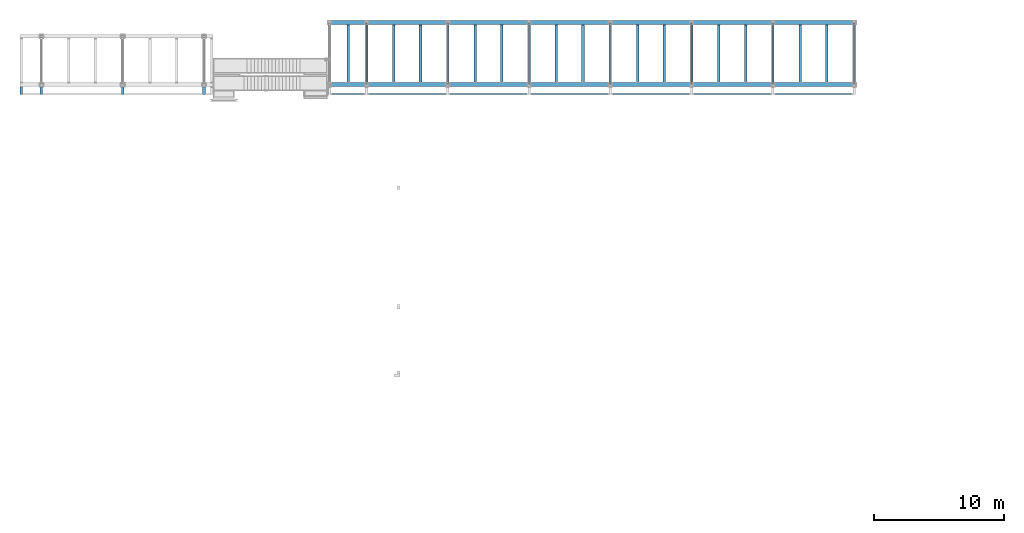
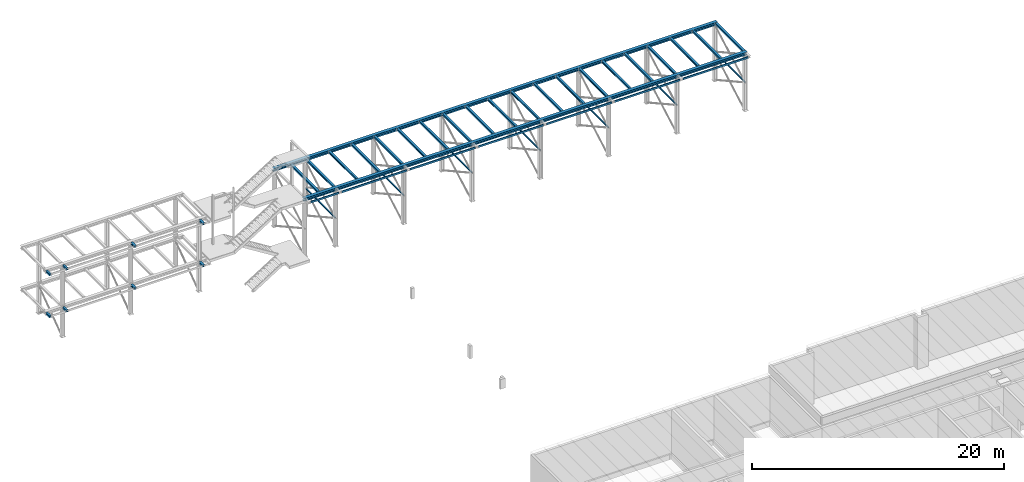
# One storey, part 6 of 24: 44 beams.
"""IFC2X3 building model written with IfcOpenShell, lengths in metres."""

from ifc_helpers import new_model, entity, si_unit, converted_unit, derived_unit, frame, origin, place, context, subcontext, project, spatial, polyline, outline, extrude, material, element, save


model = new_model("IFC2X3")

# Units and contexts
model_context = context("Model", 3, precision=1e-05, world=origin())
body_context = subcontext(model_context, "Body", "Model", "MODEL_VIEW")
ifc_project = project(units=[si_unit("LENGTHUNIT", "METRE"), si_unit("AREAUNIT", "SQUARE_METRE"), si_unit("VOLUMEUNIT", "CUBIC_METRE"), si_unit("MASSUNIT", "GRAM", prefix="KILO"), converted_unit("PLANEANGLEUNIT", "DEGREE", entity("IfcPlaneAngleMeasure", 0.0174532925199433), si_unit("PLANEANGLEUNIT", "RADIAN"), dimensions=[0, 0, 0, 0, 0, 0, 0]), derived_unit("THERMALTRANSMITTANCEUNIT", [(si_unit("POWERUNIT", "WATT"), 1), (si_unit("THERMODYNAMICTEMPERATUREUNIT", "KELVIN"), -1), (si_unit("LENGTHUNIT", "METRE"), -2)]), derived_unit("VOLUMETRICFLOWRATEUNIT", [(si_unit("LENGTHUNIT", "METRE"), 3), (converted_unit("TIMEUNIT", "hour", entity("IfcTimeMeasure", 3600.0), si_unit("TIMEUNIT", "SECOND"), dimensions=[0, 0, 1, 0, 0, 0, 0]), -1), (si_unit("LENGTHUNIT", "METRE"), -1)])], contexts=[model_context])

# Site, building, storey
site_placement = place(None, origin())
site = spatial("IfcSite", under=ifc_project, at=site_placement, Name="TWP_Speiseverteilzentrum SBW VZ II", CompositionType="ELEMENT")
building_placement = place(site_placement, origin())
building = spatial("IfcBuilding", under=site, at=building_placement, Name="Speiseverteilzentrum SBW VZ II", CompositionType="ELEMENT")
storey_placement = place(building_placement, frame((0.0, 0.0, 0.6957)))
storey = spatial("IfcBuildingStorey", under=building, at=storey_placement, Name="EG_Technik_FFB", CompositionType="ELEMENT", Elevation=0.6957)

# Beams
ifc_material_1 = material(Name="S235")
beam_1_placement = place(storey_placement, frame((69.5187031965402, 87.4749999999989, 6.19), z_axis=(0.0, 0.0, 1.0), x_axis=(-1.22464679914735e-16, -1.0, 0.0)))
element("IfcBeam", 1, at=beam_1_placement, inside=storey, material=ifc_material_1, Name="Rahmenriegel", context=body_context, shape_type="SweptSolid", body=[
    extrude(outline(polyline([(-0.15, 0.145), (-0.15, 0.131), (-0.00424999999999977, 0.131), (-0.00424999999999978, -0.131), (-0.15, -0.131), (-0.15, -0.145), (0.15, -0.145), (0.15, -0.131), (0.00425000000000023, -0.131), (0.00425000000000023, 0.131), (0.15, 0.131), (0.15, 0.145), (-0.15, 0.145)])), frame((0.0, 0.0, 0.0), z_axis=(0.0, 1.0, 0.0), x_axis=(-1.0, 0.0, 0.0)), (0.0, 0.0, 1.0), 40.6262968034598),
])
ifc_material_2 = material(Name="S235")
beam_2_placement = place(storey_placement, frame((69.5187031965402, 92.2499999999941, 6.19), z_axis=(0.0, 0.0, 1.0), x_axis=(-1.22464679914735e-16, -1.0, 0.0)))
element("IfcBeam", 2, at=beam_2_placement, inside=storey, material=ifc_material_2, Name="Rahmenriegel", context=body_context, shape_type="SweptSolid", body=[
    extrude(outline(polyline([(-0.15, 0.145), (-0.15, 0.131), (-0.00424999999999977, 0.131), (-0.00424999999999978, -0.131), (-0.15, -0.131), (-0.15, -0.145), (0.15, -0.145), (0.15, -0.131), (0.00425000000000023, -0.131), (0.00425000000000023, 0.131), (0.15, 0.131), (0.15, 0.145), (-0.15, 0.145)])), frame((0.0, 0.0, 0.0), z_axis=(0.0, 1.0, 0.0), x_axis=(-1.0, 0.0, 0.0)), (0.0, 0.0, 1.0), 40.6262968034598),
])
ifc_material_3 = material(Name="S235")
beam_3_placement = place(storey_placement, frame((110.0, 87.4792499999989, 3.35), z_axis=(0.0, 0.0, 1.0), x_axis=(1.0, -2.44929359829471e-16, 0.0)))
element("IfcBeam", 3, at=beam_3_placement, inside=storey, material=ifc_material_3, Name="Zwischenriegel", context=body_context, shape_type="SweptSolid", body=[
    extrude(outline(polyline([(-0.05, 0.048), (-0.05, 0.04), (-0.0025, 0.04), (-0.00250000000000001, -0.0399999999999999), (-0.05, -0.0399999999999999), (-0.05, -0.048), (0.05, -0.048), (0.05, -0.0399999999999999), (0.00249999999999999, -0.0399999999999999), (0.0025, 0.04), (0.05, 0.04), (0.05, 0.048), (-0.05, 0.048)])), frame((0.0, 0.0, 0.0), z_axis=(0.0, 1.0, 0.0), x_axis=(-1.0, 0.0, 0.0)), (0.0, 0.0, 1.0), 4.76649999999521),
])
ifc_material_4 = material(Name="S235")
beam_4_placement = place(storey_placement, frame((103.75, 87.4792499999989, 3.35), z_axis=(0.0, 0.0, 1.0), x_axis=(1.0, -2.44929359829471e-16, 0.0)))
element("IfcBeam", 4, at=beam_4_placement, inside=storey, material=ifc_material_4, Name="Zwischenriegel", context=body_context, shape_type="SweptSolid", body=[
    extrude(outline(polyline([(-0.05, 0.048), (-0.05, 0.04), (-0.0025, 0.04), (-0.00250000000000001, -0.0399999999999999), (-0.05, -0.0399999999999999), (-0.05, -0.048), (0.05, -0.048), (0.05, -0.0399999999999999), (0.00249999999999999, -0.0399999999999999), (0.0025, 0.04), (0.05, 0.04), (0.05, 0.048), (-0.05, 0.048)])), frame((0.0, 0.0, 0.0), z_axis=(0.0, 1.0, 0.0), x_axis=(-1.0, 0.0, 0.0)), (0.0, 0.0, 1.0), 4.76649999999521),
])
ifc_material_5 = material(Name="S235")
beam_5_placement = place(storey_placement, frame((97.49675, 87.4792499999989, 3.35), z_axis=(0.0, 0.0, 1.0), x_axis=(1.0, -2.44929359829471e-16, 0.0)))
element("IfcBeam", 5, at=beam_5_placement, inside=storey, material=ifc_material_5, Name="Zwischenriegel", context=body_context, shape_type="SweptSolid", body=[
    extrude(outline(polyline([(-0.05, 0.048), (-0.05, 0.04), (-0.0025, 0.04), (-0.00250000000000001, -0.0399999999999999), (-0.05, -0.0399999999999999), (-0.05, -0.048), (0.05, -0.048), (0.05, -0.0399999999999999), (0.00249999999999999, -0.0399999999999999), (0.0025, 0.04), (0.05, 0.04), (0.05, 0.048), (-0.05, 0.048)])), frame((0.0, 0.0, 0.0), z_axis=(0.0, 1.0, 0.0), x_axis=(-1.0, 0.0, 0.0)), (0.0, 0.0, 1.0), 4.76649999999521),
])
ifc_material_6 = material(Name="S235")
beam_6_placement = place(storey_placement, frame((91.24675, 87.4792499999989, 3.35), z_axis=(0.0, 0.0, 1.0), x_axis=(1.0, -2.44929359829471e-16, 0.0)))
element("IfcBeam", 6, at=beam_6_placement, inside=storey, material=ifc_material_6, Name="Zwischenriegel", context=body_context, shape_type="SweptSolid", body=[
    extrude(outline(polyline([(-0.05, 0.048), (-0.05, 0.04), (-0.0025, 0.04), (-0.00250000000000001, -0.0399999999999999), (-0.05, -0.0399999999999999), (-0.05, -0.048), (0.05, -0.048), (0.05, -0.0399999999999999), (0.00249999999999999, -0.0399999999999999), (0.0025, 0.04), (0.05, 0.04), (0.05, 0.048), (-0.05, 0.048)])), frame((0.0, 0.0, 0.0), z_axis=(0.0, 1.0, 0.0), x_axis=(-1.0, 0.0, 0.0)), (0.0, 0.0, 1.0), 4.76649999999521),
])
ifc_material_7 = material(Name="S235")
beam_7_placement = place(storey_placement, frame((85.00325, 87.4792499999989, 3.35), z_axis=(0.0, 0.0, 1.0), x_axis=(1.0, -2.44929359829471e-16, 0.0)))
element("IfcBeam", 7, at=beam_7_placement, inside=storey, material=ifc_material_7, Name="Zwischenriegel", context=body_context, shape_type="SweptSolid", body=[
    extrude(outline(polyline([(-0.05, 0.048), (-0.05, 0.04), (-0.0025, 0.04), (-0.00250000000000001, -0.0399999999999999), (-0.05, -0.0399999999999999), (-0.05, -0.048), (0.05, -0.048), (0.05, -0.0399999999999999), (0.00249999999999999, -0.0399999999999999), (0.0025, 0.04), (0.05, 0.04), (0.05, 0.048), (-0.05, 0.048)])), frame((0.0, 0.0, 0.0), z_axis=(0.0, 1.0, 0.0), x_axis=(-1.0, 0.0, 0.0)), (0.0, 0.0, 1.0), 4.76649999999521),
])
ifc_material_8 = material(Name="S235")
beam_8_placement = place(storey_placement, frame((78.75, 87.4792499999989, 3.35), z_axis=(0.0, 0.0, 1.0), x_axis=(1.0, -2.44929359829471e-16, 0.0)))
element("IfcBeam", 8, at=beam_8_placement, inside=storey, material=ifc_material_8, Name="Zwischenriegel", context=body_context, shape_type="SweptSolid", body=[
    extrude(outline(polyline([(-0.05, 0.048), (-0.05, 0.04), (-0.0025, 0.04), (-0.00250000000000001, -0.0399999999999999), (-0.05, -0.0399999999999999), (-0.05, -0.048), (0.05, -0.048), (0.05, -0.0399999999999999), (0.00249999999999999, -0.0399999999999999), (0.0025, 0.04), (0.05, 0.04), (0.05, 0.048), (-0.05, 0.048)])), frame((0.0, 0.0, 0.0), z_axis=(0.0, 1.0, 0.0), x_axis=(-1.0, 0.0, 0.0)), (0.0, 0.0, 1.0), 4.76649999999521),
])
ifc_material_9 = material(Name="S235")
beam_9_placement = place(storey_placement, frame((72.5, 87.4792499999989, 3.35), z_axis=(0.0, 0.0, 1.0), x_axis=(1.0, -2.44929359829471e-16, 0.0)))
element("IfcBeam", 9, at=beam_9_placement, inside=storey, material=ifc_material_9, Name="Zwischenriegel", context=body_context, shape_type="SweptSolid", body=[
    extrude(outline(polyline([(-0.05, 0.048), (-0.05, 0.04), (-0.0025, 0.04), (-0.00250000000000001, -0.0399999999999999), (-0.05, -0.0399999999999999), (-0.05, -0.048), (0.05, -0.048), (0.05, -0.0399999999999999), (0.00249999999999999, -0.0399999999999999), (0.0025, 0.04), (0.05, 0.04), (0.05, 0.048), (-0.05, 0.048)])), frame((0.0, 0.0, 0.0), z_axis=(0.0, 1.0, 0.0), x_axis=(-1.0, 0.0, 0.0)), (0.0, 0.0, 1.0), 4.76649999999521),
])
ifc_material_10 = material(Name="S235")
beam_10_placement = place(storey_placement, frame((72.37, 86.7448924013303, 6.245), z_axis=(0.0, 0.0, 1.0), x_axis=(0.0, 1.0, 0.0)))
element("IfcBeam", 10, at=beam_10_placement, inside=storey, material=ifc_material_10, Name="Nebenträger", context=body_context, shape_type="SweptSolid", body=[
    extrude(outline(polyline([(0.0198924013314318, -0.0899999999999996), (0.0198924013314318, 0.0900000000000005), (-0.0501075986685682, 0.0900000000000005), (-0.0501075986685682, 0.0814800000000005), (0.0118924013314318, 0.0765200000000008), (0.0118924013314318, -0.0765199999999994), (-0.0501075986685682, -0.0814799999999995), (-0.0501075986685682, -0.0899999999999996), (0.0198924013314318, -0.0899999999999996)])), frame((0.0, 0.0, 0.0), z_axis=(0.0, 1.0, 0.0), x_axis=(-1.0, 0.0, 0.0)), (0.0, 0.0, 1.0), 2.57629680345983),
])
ifc_material_11 = material(Name="S235")
beam_11_placement = place(storey_placement, frame((78.62, 86.7448924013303, 6.245), z_axis=(0.0, 0.0, 1.0), x_axis=(0.0, 1.0, 0.0)))
element("IfcBeam", 11, at=beam_11_placement, inside=storey, material=ifc_material_11, Name="Nebenträger", context=body_context, shape_type="SweptSolid", body=[
    extrude(outline(polyline([(0.0198924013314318, -0.0899999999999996), (0.0198924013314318, 0.0900000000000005), (-0.0501075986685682, 0.0900000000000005), (-0.0501075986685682, 0.0814800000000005), (0.0118924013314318, 0.0765200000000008), (0.0118924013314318, -0.0765199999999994), (-0.0501075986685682, -0.0814799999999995), (-0.0501075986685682, -0.0899999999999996), (0.0198924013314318, -0.0899999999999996)])), frame((0.0, 0.0, 0.0), z_axis=(0.0, 1.0, 0.0), x_axis=(-1.0, 0.0, 0.0)), (0.0, 0.0, 1.0), 5.99000000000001),
])
ifc_material_12 = material(Name="S235")
beam_12_placement = place(storey_placement, frame((84.87, 86.7448924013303, 6.245), z_axis=(0.0, 0.0, 1.0), x_axis=(0.0, 1.0, 0.0)))
element("IfcBeam", 12, at=beam_12_placement, inside=storey, material=ifc_material_12, Name="Nebenträger", context=body_context, shape_type="SweptSolid", body=[
    extrude(outline(polyline([(0.0198924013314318, -0.0899999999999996), (0.0198924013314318, 0.0900000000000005), (-0.0501075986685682, 0.0900000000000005), (-0.0501075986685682, 0.0814800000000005), (0.0118924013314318, 0.0765200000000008), (0.0118924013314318, -0.0765199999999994), (-0.0501075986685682, -0.0814799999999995), (-0.0501075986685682, -0.0899999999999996), (0.0198924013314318, -0.0899999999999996)])), frame((0.0, 0.0, 0.0), z_axis=(0.0, 1.0, 0.0), x_axis=(-1.0, 0.0, 0.0)), (0.0, 0.0, 1.0), 5.99000000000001),
])
ifc_material_13 = material(Name="S235")
beam_13_placement = place(storey_placement, frame((91.12, 86.7448924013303, 6.245), z_axis=(0.0, 0.0, 1.0), x_axis=(0.0, 1.0, 0.0)))
element("IfcBeam", 13, at=beam_13_placement, inside=storey, material=ifc_material_13, Name="Nebenträger", context=body_context, shape_type="SweptSolid", body=[
    extrude(outline(polyline([(0.0198924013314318, -0.0899999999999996), (0.0198924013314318, 0.0900000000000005), (-0.0501075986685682, 0.0900000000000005), (-0.0501075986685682, 0.0814800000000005), (0.0118924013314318, 0.0765200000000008), (0.0118924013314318, -0.0765199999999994), (-0.0501075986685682, -0.0814799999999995), (-0.0501075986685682, -0.0899999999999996), (0.0198924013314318, -0.0899999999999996)])), frame((0.0, 0.0, 0.0), z_axis=(0.0, 1.0, 0.0), x_axis=(-1.0, 0.0, 0.0)), (0.0, 0.0, 1.0), 5.99000000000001),
])
ifc_material_14 = material(Name="S235")
beam_14_placement = place(storey_placement, frame((97.37, 86.7448924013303, 6.245), z_axis=(0.0, 0.0, 1.0), x_axis=(0.0, 1.0, 0.0)))
element("IfcBeam", 14, at=beam_14_placement, inside=storey, material=ifc_material_14, Name="Nebenträger", context=body_context, shape_type="SweptSolid", body=[
    extrude(outline(polyline([(0.0198924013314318, -0.0899999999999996), (0.0198924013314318, 0.0900000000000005), (-0.0501075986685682, 0.0900000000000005), (-0.0501075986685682, 0.0814800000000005), (0.0118924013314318, 0.0765200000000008), (0.0118924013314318, -0.0765199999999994), (-0.0501075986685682, -0.0814799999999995), (-0.0501075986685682, -0.0899999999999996), (0.0198924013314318, -0.0899999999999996)])), frame((0.0, 0.0, 0.0), z_axis=(0.0, 1.0, 0.0), x_axis=(-1.0, 0.0, 0.0)), (0.0, 0.0, 1.0), 5.99000000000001),
])
ifc_material_15 = material(Name="S235")
beam_15_placement = place(storey_placement, frame((103.62, 86.7448924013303, 6.245), z_axis=(0.0, 0.0, 1.0), x_axis=(0.0, 1.0, 0.0)))
element("IfcBeam", 15, at=beam_15_placement, inside=storey, material=ifc_material_15, Name="Nebenträger", context=body_context, shape_type="SweptSolid", body=[
    extrude(outline(polyline([(0.0198924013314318, -0.0899999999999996), (0.0198924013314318, 0.0900000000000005), (-0.0501075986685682, 0.0900000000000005), (-0.0501075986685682, 0.0814800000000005), (0.0118924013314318, 0.0765200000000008), (0.0118924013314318, -0.0765199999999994), (-0.0501075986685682, -0.0814799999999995), (-0.0501075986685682, -0.0899999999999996), (0.0198924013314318, -0.0899999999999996)])), frame((0.0, 0.0, 0.0), z_axis=(0.0, 1.0, 0.0), x_axis=(-1.0, 0.0, 0.0)), (0.0, 0.0, 1.0), 5.99000000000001),
])
ifc_material_16 = material(Name="S235")
beam_16_placement = place(storey_placement, frame((109.87, 86.7448924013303, 6.245), z_axis=(0.0, 0.0, 1.0), x_axis=(0.0, 1.0, 0.0)))
element("IfcBeam", 16, at=beam_16_placement, inside=storey, material=ifc_material_16, Name="Nebenträger", context=body_context, shape_type="SweptSolid", body=[
    extrude(outline(polyline([(0.0198924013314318, -0.0899999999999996), (0.0198924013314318, 0.0900000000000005), (-0.0501075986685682, 0.0900000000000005), (-0.0501075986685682, 0.0814800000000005), (0.0118924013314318, 0.0765200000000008), (0.0118924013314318, -0.0765199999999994), (-0.0501075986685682, -0.0814799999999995), (-0.0501075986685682, -0.0899999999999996), (0.0198924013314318, -0.0899999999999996)])), frame((0.0, 0.0, 0.0), z_axis=(0.0, 1.0, 0.0), x_axis=(-1.0, 0.0, 0.0)), (0.0, 0.0, 1.0), 5.99000000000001),
])
ifc_material_17 = material(Name="S235")
beam_17_placement = place(storey_placement, frame((107.9, 87.6549999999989, 6.24), z_axis=(0.0, 0.0, 1.0), x_axis=(1.0, -1.22464679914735e-16, 0.0)))
element("IfcBeam", 17, at=beam_17_placement, inside=storey, material=ifc_material_17, Name="Nebenträger", context=body_context, shape_type="SweptSolid", body=[
    extrude(outline(polyline([(-0.1, 0.095), (-0.1, 0.085), (-0.00325000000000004, 0.085), (-0.00325000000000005, -0.085), (-0.1, -0.085), (-0.1, -0.095), (0.1, -0.095), (0.1, -0.085), (0.00324999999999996, -0.085), (0.00324999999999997, 0.085), (0.1, 0.085), (0.1, 0.095), (-0.1, 0.095)])), frame((0.0, 0.0, 0.0), z_axis=(0.0, 1.0, 0.0), x_axis=(-1.0, 0.0, 0.0)), (0.0, 0.0, 1.0), 4.41499999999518),
])
ifc_material_18 = material(Name="S235")
beam_18_placement = place(storey_placement, frame((105.85, 87.6549999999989, 6.24), z_axis=(0.0, 0.0, 1.0), x_axis=(1.0, -1.22464679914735e-16, 0.0)))
element("IfcBeam", 18, at=beam_18_placement, inside=storey, material=ifc_material_18, Name="Nebenträger", context=body_context, shape_type="SweptSolid", body=[
    extrude(outline(polyline([(-0.1, 0.095), (-0.1, 0.085), (-0.00325000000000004, 0.085), (-0.00325000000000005, -0.085), (-0.1, -0.085), (-0.1, -0.095), (0.1, -0.095), (0.1, -0.085), (0.00324999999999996, -0.085), (0.00324999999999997, 0.085), (0.1, 0.085), (0.1, 0.095), (-0.1, 0.095)])), frame((0.0, 0.0, 0.0), z_axis=(0.0, 1.0, 0.0), x_axis=(-1.0, 0.0, 0.0)), (0.0, 0.0, 1.0), 4.41499999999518),
])
ifc_material_19 = material(Name="S235")
beam_19_placement = place(storey_placement, frame((101.65, 87.6549999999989, 6.24), z_axis=(0.0, 0.0, 1.0), x_axis=(1.0, -1.22464679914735e-16, 0.0)))
element("IfcBeam", 19, at=beam_19_placement, inside=storey, material=ifc_material_19, Name="Nebenträger", context=body_context, shape_type="SweptSolid", body=[
    extrude(outline(polyline([(-0.1, 0.095), (-0.1, 0.085), (-0.00325000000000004, 0.085), (-0.00325000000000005, -0.085), (-0.1, -0.085), (-0.1, -0.095), (0.1, -0.095), (0.1, -0.085), (0.00324999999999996, -0.085), (0.00324999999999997, 0.085), (0.1, 0.085), (0.1, 0.095), (-0.1, 0.095)])), frame((0.0, 0.0, 0.0), z_axis=(0.0, 1.0, 0.0), x_axis=(-1.0, 0.0, 0.0)), (0.0, 0.0, 1.0), 4.41499999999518),
])
ifc_material_20 = material(Name="S235")
beam_20_placement = place(storey_placement, frame((99.6, 87.6549999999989, 6.24), z_axis=(0.0, 0.0, 1.0), x_axis=(1.0, -1.22464679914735e-16, 0.0)))
element("IfcBeam", 20, at=beam_20_placement, inside=storey, material=ifc_material_20, Name="Nebenträger", context=body_context, shape_type="SweptSolid", body=[
    extrude(outline(polyline([(-0.1, 0.095), (-0.1, 0.085), (-0.00325000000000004, 0.085), (-0.00325000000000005, -0.085), (-0.1, -0.085), (-0.1, -0.095), (0.1, -0.095), (0.1, -0.085), (0.00324999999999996, -0.085), (0.00324999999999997, 0.085), (0.1, 0.085), (0.1, 0.095), (-0.1, 0.095)])), frame((0.0, 0.0, 0.0), z_axis=(0.0, 1.0, 0.0), x_axis=(-1.0, 0.0, 0.0)), (0.0, 0.0, 1.0), 4.41499999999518),
])
ifc_material_21 = material(Name="S235")
beam_21_placement = place(storey_placement, frame((95.4, 87.6549999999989, 6.24), z_axis=(0.0, 0.0, 1.0), x_axis=(1.0, -1.22464679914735e-16, 0.0)))
element("IfcBeam", 21, at=beam_21_placement, inside=storey, material=ifc_material_21, Name="Nebenträger", context=body_context, shape_type="SweptSolid", body=[
    extrude(outline(polyline([(-0.1, 0.095), (-0.1, 0.085), (-0.00325000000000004, 0.085), (-0.00325000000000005, -0.085), (-0.1, -0.085), (-0.1, -0.095), (0.1, -0.095), (0.1, -0.085), (0.00324999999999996, -0.085), (0.00324999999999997, 0.085), (0.1, 0.085), (0.1, 0.095), (-0.1, 0.095)])), frame((0.0, 0.0, 0.0), z_axis=(0.0, 1.0, 0.0), x_axis=(-1.0, 0.0, 0.0)), (0.0, 0.0, 1.0), 4.41499999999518),
])
ifc_material_22 = material(Name="S235")
beam_22_placement = place(storey_placement, frame((93.35, 87.6549999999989, 6.24), z_axis=(0.0, 0.0, 1.0), x_axis=(1.0, -1.22464679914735e-16, 0.0)))
element("IfcBeam", 22, at=beam_22_placement, inside=storey, material=ifc_material_22, Name="Nebenträger", context=body_context, shape_type="SweptSolid", body=[
    extrude(outline(polyline([(-0.1, 0.095), (-0.1, 0.085), (-0.00325000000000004, 0.085), (-0.00325000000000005, -0.085), (-0.1, -0.085), (-0.1, -0.095), (0.1, -0.095), (0.1, -0.085), (0.00324999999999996, -0.085), (0.00324999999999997, 0.085), (0.1, 0.085), (0.1, 0.095), (-0.1, 0.095)])), frame((0.0, 0.0, 0.0), z_axis=(0.0, 1.0, 0.0), x_axis=(-1.0, 0.0, 0.0)), (0.0, 0.0, 1.0), 4.41499999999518),
])
ifc_material_23 = material(Name="S235")
beam_23_placement = place(storey_placement, frame((89.15, 87.6549999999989, 6.24), z_axis=(0.0, 0.0, 1.0), x_axis=(1.0, -1.22464679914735e-16, 0.0)))
element("IfcBeam", 23, at=beam_23_placement, inside=storey, material=ifc_material_23, Name="Nebenträger", context=body_context, shape_type="SweptSolid", body=[
    extrude(outline(polyline([(-0.1, 0.095), (-0.1, 0.085), (-0.00325000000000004, 0.085), (-0.00325000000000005, -0.085), (-0.1, -0.085), (-0.1, -0.095), (0.1, -0.095), (0.1, -0.085), (0.00324999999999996, -0.085), (0.00324999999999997, 0.085), (0.1, 0.085), (0.1, 0.095), (-0.1, 0.095)])), frame((0.0, 0.0, 0.0), z_axis=(0.0, 1.0, 0.0), x_axis=(-1.0, 0.0, 0.0)), (0.0, 0.0, 1.0), 4.41499999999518),
])
ifc_material_24 = material(Name="S235")
beam_24_placement = place(storey_placement, frame((87.1, 87.6549999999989, 6.24), z_axis=(0.0, 0.0, 1.0), x_axis=(1.0, -1.22464679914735e-16, 0.0)))
element("IfcBeam", 24, at=beam_24_placement, inside=storey, material=ifc_material_24, Name="Nebenträger", context=body_context, shape_type="SweptSolid", body=[
    extrude(outline(polyline([(-0.1, 0.095), (-0.1, 0.085), (-0.00325000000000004, 0.085), (-0.00325000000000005, -0.085), (-0.1, -0.085), (-0.1, -0.095), (0.1, -0.095), (0.1, -0.085), (0.00324999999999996, -0.085), (0.00324999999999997, 0.085), (0.1, 0.085), (0.1, 0.095), (-0.1, 0.095)])), frame((0.0, 0.0, 0.0), z_axis=(0.0, 1.0, 0.0), x_axis=(-1.0, 0.0, 0.0)), (0.0, 0.0, 1.0), 4.41499999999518),
])
ifc_material_25 = material(Name="S235")
beam_25_placement = place(storey_placement, frame((82.9, 87.6549999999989, 6.24), z_axis=(0.0, 0.0, 1.0), x_axis=(1.0, -1.22464679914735e-16, 0.0)))
element("IfcBeam", 25, at=beam_25_placement, inside=storey, material=ifc_material_25, Name="Nebenträger", context=body_context, shape_type="SweptSolid", body=[
    extrude(outline(polyline([(-0.1, 0.095), (-0.1, 0.085), (-0.00325000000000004, 0.085), (-0.00325000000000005, -0.085), (-0.1, -0.085), (-0.1, -0.095), (0.1, -0.095), (0.1, -0.085), (0.00324999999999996, -0.085), (0.00324999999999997, 0.085), (0.1, 0.085), (0.1, 0.095), (-0.1, 0.095)])), frame((0.0, 0.0, 0.0), z_axis=(0.0, 1.0, 0.0), x_axis=(-1.0, 0.0, 0.0)), (0.0, 0.0, 1.0), 4.41499999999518),
])
ifc_material_26 = material(Name="S235")
beam_26_placement = place(storey_placement, frame((80.85, 87.6549999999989, 6.24), z_axis=(0.0, 0.0, 1.0), x_axis=(1.0, -1.22464679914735e-16, 0.0)))
element("IfcBeam", 26, at=beam_26_placement, inside=storey, material=ifc_material_26, Name="Nebenträger", context=body_context, shape_type="SweptSolid", body=[
    extrude(outline(polyline([(-0.1, 0.095), (-0.1, 0.085), (-0.00325000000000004, 0.085), (-0.00325000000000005, -0.085), (-0.1, -0.085), (-0.1, -0.095), (0.1, -0.095), (0.1, -0.085), (0.00324999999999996, -0.085), (0.00324999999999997, 0.085), (0.1, 0.085), (0.1, 0.095), (-0.1, 0.095)])), frame((0.0, 0.0, 0.0), z_axis=(0.0, 1.0, 0.0), x_axis=(-1.0, 0.0, 0.0)), (0.0, 0.0, 1.0), 4.41499999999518),
])
ifc_material_27 = material(Name="S235")
beam_27_placement = place(storey_placement, frame((76.65, 87.6549999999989, 6.24), z_axis=(0.0, 0.0, 1.0), x_axis=(1.0, -1.22464679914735e-16, 0.0)))
element("IfcBeam", 27, at=beam_27_placement, inside=storey, material=ifc_material_27, Name="Nebenträger", context=body_context, shape_type="SweptSolid", body=[
    extrude(outline(polyline([(-0.1, 0.095), (-0.1, 0.085), (-0.00325000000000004, 0.085), (-0.00325000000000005, -0.085), (-0.1, -0.085), (-0.1, -0.095), (0.1, -0.095), (0.1, -0.085), (0.00324999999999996, -0.085), (0.00324999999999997, 0.085), (0.1, 0.085), (0.1, 0.095), (-0.1, 0.095)])), frame((0.0, 0.0, 0.0), z_axis=(0.0, 1.0, 0.0), x_axis=(-1.0, 0.0, 0.0)), (0.0, 0.0, 1.0), 4.41499999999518),
])
ifc_material_28 = material(Name="S235")
beam_28_placement = place(storey_placement, frame((74.6, 87.6549999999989, 6.24), z_axis=(0.0, 0.0, 1.0), x_axis=(1.0, -1.22464679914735e-16, 0.0)))
element("IfcBeam", 28, at=beam_28_placement, inside=storey, material=ifc_material_28, Name="Nebenträger", context=body_context, shape_type="SweptSolid", body=[
    extrude(outline(polyline([(-0.1, 0.095), (-0.1, 0.085), (-0.00325000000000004, 0.085), (-0.00325000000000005, -0.085), (-0.1, -0.085), (-0.1, -0.095), (0.1, -0.095), (0.1, -0.085), (0.00324999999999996, -0.085), (0.00324999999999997, 0.085), (0.1, 0.085), (0.1, 0.095), (-0.1, 0.095)])), frame((0.0, 0.0, 0.0), z_axis=(0.0, 1.0, 0.0), x_axis=(-1.0, 0.0, 0.0)), (0.0, 0.0, 1.0), 4.41499999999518),
])
ifc_material_29 = material(Name="S235")
beam_29_placement = place(storey_placement, frame((71.0818515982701, 87.6549999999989, 6.24), z_axis=(0.0, 0.0, 1.0), x_axis=(1.0, -1.22464679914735e-16, 0.0)))
element("IfcBeam", 29, at=beam_29_placement, inside=storey, material=ifc_material_29, Name="Nebenträger", context=body_context, shape_type="SweptSolid", body=[
    extrude(outline(polyline([(-0.1, 0.095), (-0.1, 0.085), (-0.00325000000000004, 0.085), (-0.00325000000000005, -0.085), (-0.1, -0.085), (-0.1, -0.095), (0.1, -0.095), (0.1, -0.085), (0.00324999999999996, -0.085), (0.00324999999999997, 0.085), (0.1, 0.085), (0.1, 0.095), (-0.1, 0.095)])), frame((0.0, 0.0, 0.0), z_axis=(0.0, 1.0, 0.0), x_axis=(-1.0, 0.0, 0.0)), (0.0, 0.0, 1.0), 4.41499999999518),
])
ifc_material_30 = material(Name="S235")
beam_30_placement = place(storey_placement, frame((60.0, 86.7249999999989, 3.535), z_axis=(0.0, 0.0, 1.0), x_axis=(1.0, -1.22464679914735e-16, 0.0)))
element("IfcBeam", 30, at=beam_30_placement, inside=storey, material=ifc_material_30, Name="Kragarm", context=body_context, shape_type="SweptSolid", body=[
    extrude(outline(polyline([(-0.1, 0.095), (-0.1, 0.085), (-0.00325000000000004, 0.085), (-0.00325000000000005, -0.085), (-0.1, -0.085), (-0.1, -0.095), (0.1, -0.095), (0.1, -0.085), (0.00324999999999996, -0.085), (0.00324999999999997, 0.085), (0.1, 0.085), (0.1, 0.095), (-0.1, 0.095)])), frame((0.0, 0.0, 0.0), z_axis=(0.0, 1.0, 0.0), x_axis=(-1.0, 0.0, 0.0)), (0.0, 0.0, 1.0), 0.569999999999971),
])
ifc_material_31 = material(Name="S235")
beam_31_placement = place(storey_placement, frame((60.0, 86.7249999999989, 7.595), z_axis=(0.0, 0.0, 1.0), x_axis=(1.0, -1.22464679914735e-16, 0.0)))
element("IfcBeam", 31, at=beam_31_placement, inside=storey, material=ifc_material_31, Name="Kragarm", context=body_context, shape_type="SweptSolid", body=[
    extrude(outline(polyline([(-0.1, 0.095), (-0.1, 0.085), (-0.00325000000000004, 0.085), (-0.00325000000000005, -0.085), (-0.1, -0.085), (-0.1, -0.095), (0.1, -0.095), (0.1, -0.085), (0.00324999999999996, -0.085), (0.00324999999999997, 0.085), (0.1, 0.085), (0.1, 0.095), (-0.1, 0.095)])), frame((0.0, 0.0, 0.0), z_axis=(0.0, 1.0, 0.0), x_axis=(-1.0, 0.0, 0.0)), (0.0, 0.0, 1.0), 0.569999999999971),
])
ifc_material_32 = material(Name="S235")
beam_32_placement = place(storey_placement, frame((53.75, 86.7249999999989, 3.535), z_axis=(0.0, 0.0, 1.0), x_axis=(1.0, -1.22464679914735e-16, 0.0)))
element("IfcBeam", 32, at=beam_32_placement, inside=storey, material=ifc_material_32, Name="Kragarm", context=body_context, shape_type="SweptSolid", body=[
    extrude(outline(polyline([(-0.1, 0.095), (-0.1, 0.085), (-0.00325000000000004, 0.085), (-0.00325000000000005, -0.085), (-0.1, -0.085), (-0.1, -0.095), (0.1, -0.095), (0.1, -0.085), (0.00324999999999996, -0.085), (0.00324999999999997, 0.085), (0.1, 0.085), (0.1, 0.095), (-0.1, 0.095)])), frame((0.0, 0.0, 0.0), z_axis=(0.0, 1.0, 0.0), x_axis=(-1.0, 0.0, 0.0)), (0.0, 0.0, 1.0), 0.569999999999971),
])
ifc_material_33 = material(Name="S235")
beam_33_placement = place(storey_placement, frame((53.75, 86.7249999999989, 7.595), z_axis=(0.0, 0.0, 1.0), x_axis=(1.0, -1.22464679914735e-16, 0.0)))
element("IfcBeam", 33, at=beam_33_placement, inside=storey, material=ifc_material_33, Name="Kragarm", context=body_context, shape_type="SweptSolid", body=[
    extrude(outline(polyline([(-0.1, 0.095), (-0.1, 0.085), (-0.00325000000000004, 0.085), (-0.00325000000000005, -0.085), (-0.1, -0.085), (-0.1, -0.095), (0.1, -0.095), (0.1, -0.085), (0.00324999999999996, -0.085), (0.00324999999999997, 0.085), (0.1, 0.085), (0.1, 0.095), (-0.1, 0.095)])), frame((0.0, 0.0, 0.0), z_axis=(0.0, 1.0, 0.0), x_axis=(-1.0, 0.0, 0.0)), (0.0, 0.0, 1.0), 0.569999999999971),
])
ifc_material_34 = material(Name="S235")
beam_34_placement = place(storey_placement, frame((47.5, 86.7249999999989, 3.535), z_axis=(0.0, 0.0, 1.0), x_axis=(1.0, -1.22464679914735e-16, 0.0)))
element("IfcBeam", 34, at=beam_34_placement, inside=storey, material=ifc_material_34, Name="Kragarm", context=body_context, shape_type="SweptSolid", body=[
    extrude(outline(polyline([(-0.1, 0.095), (-0.1, 0.085), (-0.00325000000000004, 0.085), (-0.00325000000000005, -0.085), (-0.1, -0.085), (-0.1, -0.095), (0.1, -0.095), (0.1, -0.085), (0.00324999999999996, -0.085), (0.00324999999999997, 0.085), (0.1, 0.085), (0.1, 0.095), (-0.1, 0.095)])), frame((0.0, 0.0, 0.0), z_axis=(0.0, 1.0, 0.0), x_axis=(-1.0, 0.0, 0.0)), (0.0, 0.0, 1.0), 0.569999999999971),
])
ifc_material_35 = material(Name="S235")
beam_35_placement = place(storey_placement, frame((47.5, 86.7249999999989, 7.595), z_axis=(0.0, 0.0, 1.0), x_axis=(1.0, -1.22464679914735e-16, 0.0)))
element("IfcBeam", 35, at=beam_35_placement, inside=storey, material=ifc_material_35, Name="Kragarm", context=body_context, shape_type="SweptSolid", body=[
    extrude(outline(polyline([(-0.1, 0.095), (-0.1, 0.085), (-0.00325000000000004, 0.085), (-0.00325000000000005, -0.085), (-0.1, -0.085), (-0.1, -0.095), (0.1, -0.095), (0.1, -0.085), (0.00324999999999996, -0.085), (0.00324999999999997, 0.085), (0.1, 0.085), (0.1, 0.095), (-0.1, 0.095)])), frame((0.0, 0.0, 0.0), z_axis=(0.0, 1.0, 0.0), x_axis=(-1.0, 0.0, 0.0)), (0.0, 0.0, 1.0), 0.569999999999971),
])
ifc_material_36 = material(Name="S235")
beam_36_placement = place(storey_placement, frame((45.955, 86.7249999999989, 3.535), z_axis=(0.0, 0.0, 1.0), x_axis=(1.0, -1.22464679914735e-16, 0.0)))
element("IfcBeam", 36, at=beam_36_placement, inside=storey, material=ifc_material_36, Name="Kragarm", context=body_context, shape_type="SweptSolid", body=[
    extrude(outline(polyline([(-0.1, 0.095), (-0.1, 0.085), (-0.00325000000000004, 0.085), (-0.00325000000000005, -0.085), (-0.1, -0.085), (-0.1, -0.095), (0.1, -0.095), (0.1, -0.085), (0.00324999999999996, -0.085), (0.00324999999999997, 0.085), (0.1, 0.085), (0.1, 0.095), (-0.1, 0.095)])), frame((0.0, 0.0, 0.0), z_axis=(0.0, 1.0, 0.0), x_axis=(-1.0, 0.0, 0.0)), (0.0, 0.0, 1.0), 0.569999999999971),
])
ifc_material_37 = material(Name="S235")
beam_37_placement = place(storey_placement, frame((45.955, 86.7249999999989, 7.595), z_axis=(0.0, 0.0, 1.0), x_axis=(1.0, -1.22464679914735e-16, 0.0)))
element("IfcBeam", 37, at=beam_37_placement, inside=storey, material=ifc_material_37, Name="Kragarm", context=body_context, shape_type="SweptSolid", body=[
    extrude(outline(polyline([(-0.1, 0.095), (-0.1, 0.085), (-0.00325000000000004, 0.085), (-0.00325000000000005, -0.085), (-0.1, -0.085), (-0.1, -0.095), (0.1, -0.095), (0.1, -0.085), (0.00324999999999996, -0.085), (0.00324999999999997, 0.085), (0.1, 0.085), (0.1, 0.095), (-0.1, 0.095)])), frame((0.0, 0.0, 0.0), z_axis=(0.0, 1.0, 0.0), x_axis=(-1.0, 0.0, 0.0)), (0.0, 0.0, 1.0), 0.569999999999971),
])
ifc_material_38 = material(Name="S235")
beam_38_placement = place(storey_placement, frame((110.0, 87.6549999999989, 6.24), z_axis=(0.0, 0.0, 1.0), x_axis=(1.0, -2.44929359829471e-16, 0.0)))
element("IfcBeam", 38, at=beam_38_placement, inside=storey, material=ifc_material_38, Name="Rahmenriegel", context=body_context, shape_type="SweptSolid", body=[
    extrude(outline(polyline([(-0.1, 0.095), (-0.1, 0.085), (-0.00325000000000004, 0.085), (-0.00325000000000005, -0.085), (-0.1, -0.085), (-0.1, -0.095), (0.1, -0.095), (0.1, -0.085), (0.00324999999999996, -0.085), (0.00324999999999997, 0.085), (0.1, 0.085), (0.1, 0.095), (-0.1, 0.095)])), frame((0.0, 0.0, 0.0), z_axis=(0.0, 1.0, 0.0), x_axis=(-1.0, 0.0, 0.0)), (0.0, 0.0, 1.0), 4.4149999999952),
])
ifc_material_39 = material(Name="S235")
beam_39_placement = place(storey_placement, frame((103.75, 87.6549999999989, 6.24), z_axis=(0.0, 0.0, 1.0), x_axis=(1.0, -2.44929359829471e-16, 0.0)))
element("IfcBeam", 39, at=beam_39_placement, inside=storey, material=ifc_material_39, Name="Rahmenriegel", context=body_context, shape_type="SweptSolid", body=[
    extrude(outline(polyline([(-0.1, 0.095), (-0.1, 0.085), (-0.00325000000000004, 0.085), (-0.00325000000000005, -0.085), (-0.1, -0.085), (-0.1, -0.095), (0.1, -0.095), (0.1, -0.085), (0.00324999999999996, -0.085), (0.00324999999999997, 0.085), (0.1, 0.085), (0.1, 0.095), (-0.1, 0.095)])), frame((0.0, 0.0, 0.0), z_axis=(0.0, 1.0, 0.0), x_axis=(-1.0, 0.0, 0.0)), (0.0, 0.0, 1.0), 4.4149999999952),
])
ifc_material_40 = material(Name="S235")
beam_40_placement = place(storey_placement, frame((97.49675, 87.6549999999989, 6.24), z_axis=(0.0, 0.0, 1.0), x_axis=(1.0, -2.44929359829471e-16, 0.0)))
element("IfcBeam", 40, at=beam_40_placement, inside=storey, material=ifc_material_40, Name="Rahmenriegel", context=body_context, shape_type="SweptSolid", body=[
    extrude(outline(polyline([(-0.1, 0.095), (-0.1, 0.085), (-0.00325000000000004, 0.085), (-0.00325000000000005, -0.085), (-0.1, -0.085), (-0.1, -0.095), (0.1, -0.095), (0.1, -0.085), (0.00324999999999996, -0.085), (0.00324999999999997, 0.085), (0.1, 0.085), (0.1, 0.095), (-0.1, 0.095)])), frame((0.0, 0.0, 0.0), z_axis=(0.0, 1.0, 0.0), x_axis=(-1.0, 0.0, 0.0)), (0.0, 0.0, 1.0), 4.4149999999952),
])
ifc_material_41 = material(Name="S235")
beam_41_placement = place(storey_placement, frame((91.24675, 87.6549999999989, 6.24), z_axis=(0.0, 0.0, 1.0), x_axis=(1.0, -2.44929359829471e-16, 0.0)))
element("IfcBeam", 41, at=beam_41_placement, inside=storey, material=ifc_material_41, Name="Rahmenriegel", context=body_context, shape_type="SweptSolid", body=[
    extrude(outline(polyline([(-0.1, 0.095), (-0.1, 0.085), (-0.00325000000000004, 0.085), (-0.00325000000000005, -0.085), (-0.1, -0.085), (-0.1, -0.095), (0.1, -0.095), (0.1, -0.085), (0.00324999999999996, -0.085), (0.00324999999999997, 0.085), (0.1, 0.085), (0.1, 0.095), (-0.1, 0.095)])), frame((0.0, 0.0, 0.0), z_axis=(0.0, 1.0, 0.0), x_axis=(-1.0, 0.0, 0.0)), (0.0, 0.0, 1.0), 4.4149999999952),
])
ifc_material_42 = material(Name="S235")
beam_42_placement = place(storey_placement, frame((85.00325, 87.6549999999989, 6.24), z_axis=(0.0, 0.0, 1.0), x_axis=(1.0, -2.44929359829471e-16, 0.0)))
element("IfcBeam", 42, at=beam_42_placement, inside=storey, material=ifc_material_42, Name="Rahmenriegel", context=body_context, shape_type="SweptSolid", body=[
    extrude(outline(polyline([(-0.1, 0.095), (-0.1, 0.085), (-0.00325000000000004, 0.085), (-0.00325000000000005, -0.085), (-0.1, -0.085), (-0.1, -0.095), (0.1, -0.095), (0.1, -0.085), (0.00324999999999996, -0.085), (0.00324999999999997, 0.085), (0.1, 0.085), (0.1, 0.095), (-0.1, 0.095)])), frame((0.0, 0.0, 0.0), z_axis=(0.0, 1.0, 0.0), x_axis=(-1.0, 0.0, 0.0)), (0.0, 0.0, 1.0), 4.4149999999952),
])
ifc_material_43 = material(Name="S235")
beam_43_placement = place(storey_placement, frame((78.75, 87.6549999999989, 6.24), z_axis=(0.0, 0.0, 1.0), x_axis=(1.0, -2.44929359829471e-16, 0.0)))
element("IfcBeam", 43, at=beam_43_placement, inside=storey, material=ifc_material_43, Name="Rahmenriegel", context=body_context, shape_type="SweptSolid", body=[
    extrude(outline(polyline([(-0.1, 0.095), (-0.1, 0.085), (-0.00325000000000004, 0.085), (-0.00325000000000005, -0.085), (-0.1, -0.085), (-0.1, -0.095), (0.1, -0.095), (0.1, -0.085), (0.00324999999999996, -0.085), (0.00324999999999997, 0.085), (0.1, 0.085), (0.1, 0.095), (-0.1, 0.095)])), frame((0.0, 0.0, 0.0), z_axis=(0.0, 1.0, 0.0), x_axis=(-1.0, 0.0, 0.0)), (0.0, 0.0, 1.0), 4.4149999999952),
])
ifc_material_44 = material(Name="S235")
beam_44_placement = place(storey_placement, frame((72.5, 87.6549999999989, 6.24), z_axis=(0.0, 0.0, 1.0), x_axis=(1.0, -2.44929359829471e-16, 0.0)))
element("IfcBeam", 44, at=beam_44_placement, inside=storey, material=ifc_material_44, Name="Rahmenriegel", context=body_context, shape_type="SweptSolid", body=[
    extrude(outline(polyline([(-0.1, 0.095), (-0.1, 0.085), (-0.00325000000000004, 0.085), (-0.00325000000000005, -0.085), (-0.1, -0.085), (-0.1, -0.095), (0.1, -0.095), (0.1, -0.085), (0.00324999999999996, -0.085), (0.00324999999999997, 0.085), (0.1, 0.085), (0.1, 0.095), (-0.1, 0.095)])), frame((0.0, 0.0, 0.0), z_axis=(0.0, 1.0, 0.0), x_axis=(-1.0, 0.0, 0.0)), (0.0, 0.0, 1.0), 4.4149999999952),
])

save(model, "model.ifc")
